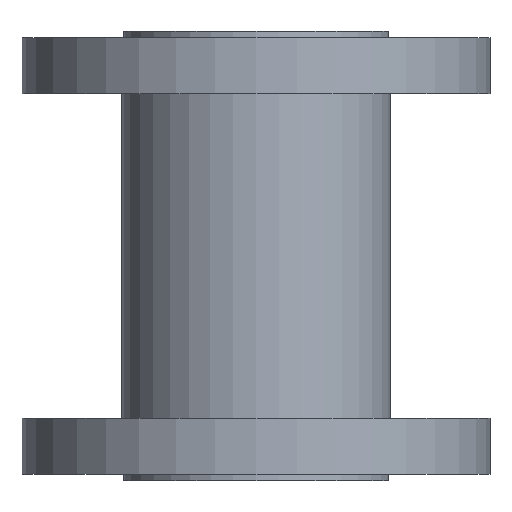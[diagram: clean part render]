
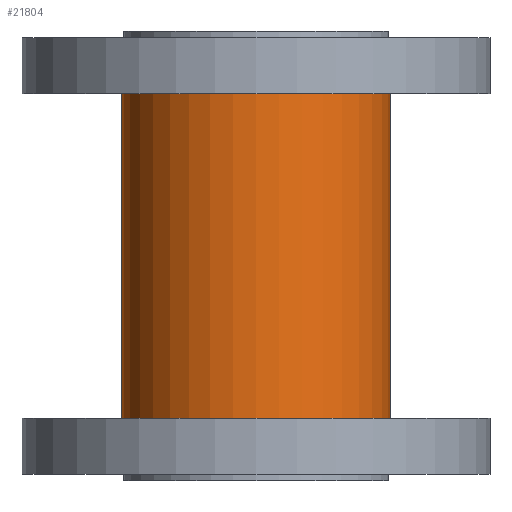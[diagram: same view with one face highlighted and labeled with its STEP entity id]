
A CAD part, front view. The second image highlights one B-rep face of the part: STEP entity #21804.
In plain terms, the highlighted cylindrical face has radius 43 mm (diameter 86 mm), a partial arc.
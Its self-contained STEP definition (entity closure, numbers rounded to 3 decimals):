
#83 = CARTESIAN_POINT ( 'NONE',  ( 43., 0., 70. ) ) ;
#1654 = CYLINDRICAL_SURFACE ( 'NONE', #8307, 43. ) ;
#2168 = CARTESIAN_POINT ( 'NONE',  ( -43., 0., -52. ) ) ;
#2690 = VECTOR ( 'NONE', #17881, 1000. ) ;
#2802 = VECTOR ( 'NONE', #25612, 1000. ) ;
#3766 = LINE ( 'NONE', #13119, #2690 ) ;
#5136 = EDGE_CURVE ( 'NONE', #27987, #12850, #3766, .T. ) ;
#5767 = EDGE_CURVE ( 'NONE', #25623, #12850, #13450, .T. ) ;
#6386 = DIRECTION ( 'NONE',  ( 0., 0., -1. ) ) ;
#7252 = CIRCLE ( 'NONE', #21451, 43. ) ;
#8151 = CARTESIAN_POINT ( 'NONE',  ( 43., 0., -52. ) ) ;
#8307 = AXIS2_PLACEMENT_3D ( 'NONE', #25222, #6386, #25078 ) ;
#8564 = EDGE_LOOP ( 'NONE', ( #13590, #8662, #26760, #26432 ) ) ;
#8662 = ORIENTED_EDGE ( 'NONE', *, *, #16745, .F. ) ;
#8961 = CARTESIAN_POINT ( 'NONE',  ( 43., 0., 52. ) ) ;
#9213 = LINE ( 'NONE', #83, #2802 ) ;
#10053 = EDGE_CURVE ( 'NONE', #26584, #25623, #9213, .T. ) ;
#12850 = VERTEX_POINT ( 'NONE', #2168 ) ;
#13119 = CARTESIAN_POINT ( 'NONE',  ( -43., 0., 70. ) ) ;
#13450 = CIRCLE ( 'NONE', #20312, 43. ) ;
#13519 = DIRECTION ( 'NONE',  ( 0., 0., -1. ) ) ;
#13590 = ORIENTED_EDGE ( 'NONE', *, *, #10053, .F. ) ;
#13679 = CARTESIAN_POINT ( 'NONE',  ( 0., 0., -52. ) ) ;
#15902 = FACE_OUTER_BOUND ( 'NONE', #8564, .T. ) ;
#16745 = EDGE_CURVE ( 'NONE', #27987, #26584, #7252, .T. ) ;
#17423 = DIRECTION ( 'NONE',  ( 0., 0., 1. ) ) ;
#17881 = DIRECTION ( 'NONE',  ( 0., 0., -1. ) ) ;
#20312 = AXIS2_PLACEMENT_3D ( 'NONE', #13679, #13519, #27597 ) ;
#21451 = AXIS2_PLACEMENT_3D ( 'NONE', #21563, #17423, #23863 ) ;
#21563 = CARTESIAN_POINT ( 'NONE',  ( 0., 0., 52. ) ) ;
#21804 = ADVANCED_FACE ( 'NONE', ( #15902 ), #1654, .T. ) ;
#23863 = DIRECTION ( 'NONE',  ( 1., 0., 0. ) ) ;
#25078 = DIRECTION ( 'NONE',  ( -1., 0., 0. ) ) ;
#25222 = CARTESIAN_POINT ( 'NONE',  ( 0., 0., 70. ) ) ;
#25612 = DIRECTION ( 'NONE',  ( 0., 0., -1. ) ) ;
#25623 = VERTEX_POINT ( 'NONE', #8151 ) ;
#25805 = CARTESIAN_POINT ( 'NONE',  ( -43., 0., 52. ) ) ;
#26432 = ORIENTED_EDGE ( 'NONE', *, *, #5767, .F. ) ;
#26584 = VERTEX_POINT ( 'NONE', #8961 ) ;
#26760 = ORIENTED_EDGE ( 'NONE', *, *, #5136, .T. ) ;
#27597 = DIRECTION ( 'NONE',  ( -1., 0., 0. ) ) ;
#27987 = VERTEX_POINT ( 'NONE', #25805 ) ;
